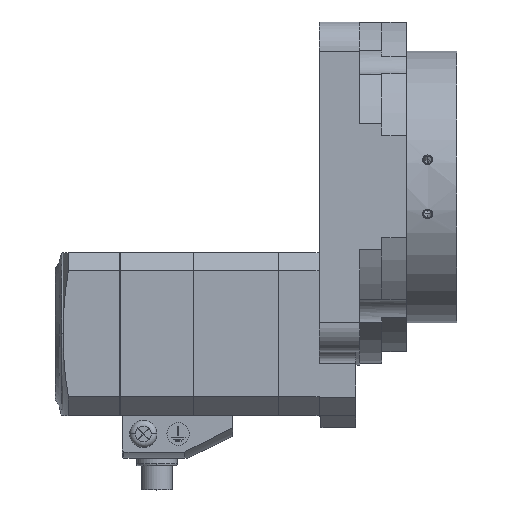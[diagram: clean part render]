
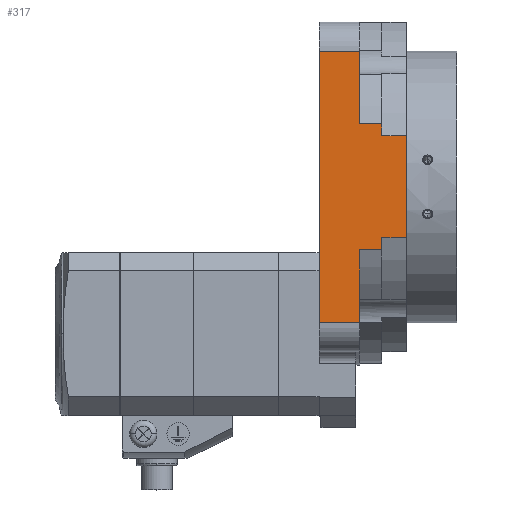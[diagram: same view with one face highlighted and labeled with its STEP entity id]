
A CAD part, top view. The second image highlights one B-rep face of the part: STEP entity #317.
In plain terms, the highlighted planar face has unit normal (0, 0, 1).
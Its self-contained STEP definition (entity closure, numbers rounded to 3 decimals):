
#317 = ADVANCED_FACE( '', ( #827 ), #828, .F. );
#827 = FACE_OUTER_BOUND( '', #1455, .T. );
#828 = PLANE( '', #1456 );
#1455 = EDGE_LOOP( '', ( #3291, #3292, #3293, #3294, #3295, #3296, #3297, #3298, #3299, #3300, #3301, #3302 ) );
#1456 = AXIS2_PLACEMENT_3D( '', #3303, #3304, #3305 );
#3291 = ORIENTED_EDGE( '', *, *, #4582, .F. );
#3292 = ORIENTED_EDGE( '', *, *, #4583, .F. );
#3293 = ORIENTED_EDGE( '', *, *, #4584, .F. );
#3294 = ORIENTED_EDGE( '', *, *, #4158, .F. );
#3295 = ORIENTED_EDGE( '', *, *, #4585, .F. );
#3296 = ORIENTED_EDGE( '', *, *, #4586, .F. );
#3297 = ORIENTED_EDGE( '', *, *, #4587, .F. );
#3298 = ORIENTED_EDGE( '', *, *, #4588, .F. );
#3299 = ORIENTED_EDGE( '', *, *, #4558, .F. );
#3300 = ORIENTED_EDGE( '', *, *, #4530, .T. );
#3301 = ORIENTED_EDGE( '', *, *, #4565, .T. );
#3302 = ORIENTED_EDGE( '', *, *, #4589, .F. );
#3303 = CARTESIAN_POINT( '', ( 0., -50., 42.5 ) );
#3304 = DIRECTION( '', ( 0., 0., -1. ) );
#3305 = DIRECTION( '', ( 0., -1., 0. ) );
#4158 = EDGE_CURVE( '', #5009, #5010, #5011, .T. );
#4530 = EDGE_CURVE( '', #5613, #5611, #5614, .T. );
#4558 = EDGE_CURVE( '', #5613, #5654, #5658, .T. );
#4565 = EDGE_CURVE( '', #5611, #5667, #5669, .T. );
#4582 = EDGE_CURVE( '', #5698, #5699, #5700, .T. );
#4583 = EDGE_CURVE( '', #5701, #5698, #5702, .T. );
#4584 = EDGE_CURVE( '', #5010, #5701, #5703, .T. );
#4585 = EDGE_CURVE( '', #5704, #5009, #5705, .T. );
#4586 = EDGE_CURVE( '', #5706, #5704, #5707, .T. );
#4587 = EDGE_CURVE( '', #5708, #5706, #5709, .T. );
#4588 = EDGE_CURVE( '', #5654, #5708, #5710, .T. );
#4589 = EDGE_CURVE( '', #5699, #5667, #5711, .T. );
#5009 = VERTEX_POINT( '', #6303 );
#5010 = VERTEX_POINT( '', #6304 );
#5011 = LINE( '', #6305, #6306 );
#5611 = VERTEX_POINT( '', #7303 );
#5613 = VERTEX_POINT( '', #7305 );
#5614 = LINE( '', #7306, #7307 );
#5654 = VERTEX_POINT( '', #7365 );
#5658 = LINE( '', #7370, #7371 );
#5667 = VERTEX_POINT( '', #7383 );
#5669 = LINE( '', #7385, #7386 );
#5698 = VERTEX_POINT( '', #7431 );
#5699 = VERTEX_POINT( '', #7432 );
#5700 = LINE( '', #7433, #7434 );
#5701 = VERTEX_POINT( '', #7435 );
#5702 = LINE( '', #7436, #7437 );
#5703 = LINE( '', #7438, #7439 );
#5704 = VERTEX_POINT( '', #7440 );
#5705 = LINE( '', #7441, #7442 );
#5706 = VERTEX_POINT( '', #7443 );
#5707 = LINE( '', #7444, #7445 );
#5708 = VERTEX_POINT( '', #7446 );
#5709 = LINE( '', #7447, #7448 );
#5710 = LINE( '', #7449, #7450 );
#5711 = LINE( '', #7451, #7452 );
#6303 = CARTESIAN_POINT( '', ( -13., 13.191, 42.5 ) );
#6304 = CARTESIAN_POINT( '', ( -13., -13.191, 42.5 ) );
#6305 = CARTESIAN_POINT( '', ( -13., -8.688, 42.5 ) );
#6306 = VECTOR( '', #8144, 1. );
#7303 = CARTESIAN_POINT( '', ( -35.5, -35., 42.5 ) );
#7305 = CARTESIAN_POINT( '', ( -35.5, 35., 42.5 ) );
#7306 = CARTESIAN_POINT( '', ( -35.5, 35., 42.5 ) );
#7307 = VECTOR( '', #8635, 1. );
#7365 = CARTESIAN_POINT( '', ( -25., 35., 42.5 ) );
#7370 = CARTESIAN_POINT( '', ( -35.5, 35., 42.5 ) );
#7371 = VECTOR( '', #8679, 1. );
#7383 = CARTESIAN_POINT( '', ( -25., -35., 42.5 ) );
#7385 = CARTESIAN_POINT( '', ( -35.5, -35., 42.5 ) );
#7386 = VECTOR( '', #8692, 1. );
#7431 = CARTESIAN_POINT( '', ( -19.3, -16.248, 42.5 ) );
#7432 = CARTESIAN_POINT( '', ( -25., -16.248, 42.5 ) );
#7433 = CARTESIAN_POINT( '', ( -22.15, -16.248, 42.5 ) );
#7434 = VECTOR( '', #8709, 1. );
#7435 = CARTESIAN_POINT( '', ( -19.3, -13.191, 42.5 ) );
#7436 = CARTESIAN_POINT( '', ( -19.3, -25., 42.5 ) );
#7437 = VECTOR( '', #8710, 1. );
#7438 = CARTESIAN_POINT( '', ( -16.15, -13.191, 42.5 ) );
#7439 = VECTOR( '', #8711, 1. );
#7440 = CARTESIAN_POINT( '', ( -19.3, 13.191, 42.5 ) );
#7441 = CARTESIAN_POINT( '', ( -16.15, 13.191, 42.5 ) );
#7442 = VECTOR( '', #8712, 1. );
#7443 = CARTESIAN_POINT( '', ( -19.3, 16.248, 42.5 ) );
#7444 = CARTESIAN_POINT( '', ( -19.3, -25., 42.5 ) );
#7445 = VECTOR( '', #8713, 1. );
#7446 = CARTESIAN_POINT( '', ( -25., 16.248, 42.5 ) );
#7447 = CARTESIAN_POINT( '', ( -22.15, 16.248, 42.5 ) );
#7448 = VECTOR( '', #8714, 1. );
#7449 = CARTESIAN_POINT( '', ( -25., -2.125, 42.5 ) );
#7450 = VECTOR( '', #8715, 1. );
#7451 = CARTESIAN_POINT( '', ( -25., -2.125, 42.5 ) );
#7452 = VECTOR( '', #8716, 1. );
#8144 = DIRECTION( '', ( 0., -1., 0. ) );
#8635 = DIRECTION( '', ( 0., -1., 0. ) );
#8679 = DIRECTION( '', ( 1., 0., 0. ) );
#8692 = DIRECTION( '', ( 1., 0., 0. ) );
#8709 = DIRECTION( '', ( -1., 0., 0. ) );
#8710 = DIRECTION( '', ( 0., -1., 0. ) );
#8711 = DIRECTION( '', ( -1., 0., 0. ) );
#8712 = DIRECTION( '', ( 1., 0., 0. ) );
#8713 = DIRECTION( '', ( 0., -1., 0. ) );
#8714 = DIRECTION( '', ( 1., 0., 0. ) );
#8715 = DIRECTION( '', ( 0., -1., 0. ) );
#8716 = DIRECTION( '', ( 0., -1., 0. ) );
